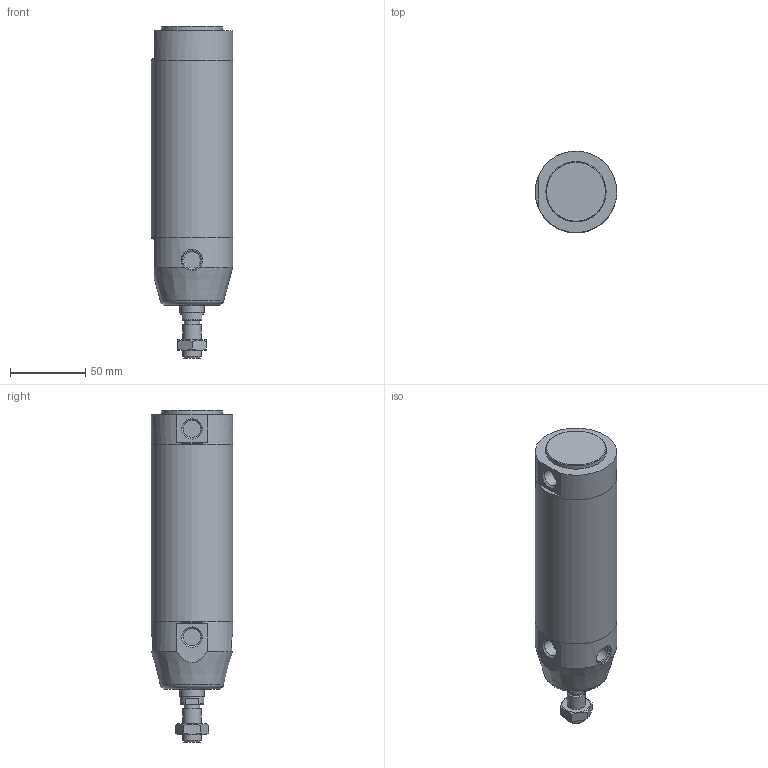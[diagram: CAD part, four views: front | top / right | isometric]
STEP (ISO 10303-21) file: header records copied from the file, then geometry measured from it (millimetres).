
FILE_DESCRIPTION(/* description */ (''),/* implementation_level */ '2;1');
FILE_NAME(/* name */ 'I:\Area Tecnica\Documenti\A-Manieri\_Inventor\12X\12X#E_###_####_#_#\12XAE_050_0075_#_#.stp',/* time_stamp */ '2015-05-08T13:40:16+02:00',/* author */ ('maniean1'),/* organization */ ('Pneumax S.p.A.'),/* preprocessor_version */ 'ST-DEVELOPER v15.2',/* originating_system */ 'Autodesk Inventor 2014',/* authorisation */ '');
FILE_SCHEMA (('AUTOMOTIVE_DESIGN { 1 0 10303 214 3 1 1 }'));
Length unit declared in the file: millimetre
Products named in the file (6): C1250_619-0075; 12X50_622; S12X50_0075; 12X_50_11; 12X50_611; 12XAE_050_0075_#_#
Bounding box: 54 x 54 x 220 mm (x, y, z)
Volume: 278283.4 mm3; surface area: 79858 mm2
Topology: 5 solids, 5 shells, 65 faces, 132 edges, 84 vertices
Faces by surface type: plane 33, cylinder 18, cone 13, torus 1
Full cylindrical faces by diameter (mm): 10.2 x1, 10.9 x2, 11.4 x2, 12 x2, 14 x1, 14.1 x2, 15.6 x1, 16 x1, 40 x1, 50 x2, 54 x3
Entity records: 1691 total; most frequent: CARTESIAN_POINT 368, DIRECTION 279, ORIENTED_EDGE 190, AXIS2_PLACEMENT_3D 129, EDGE_LOOP 108, EDGE_CURVE 95, VERTEX_POINT 77, ADVANCED_FACE 65
